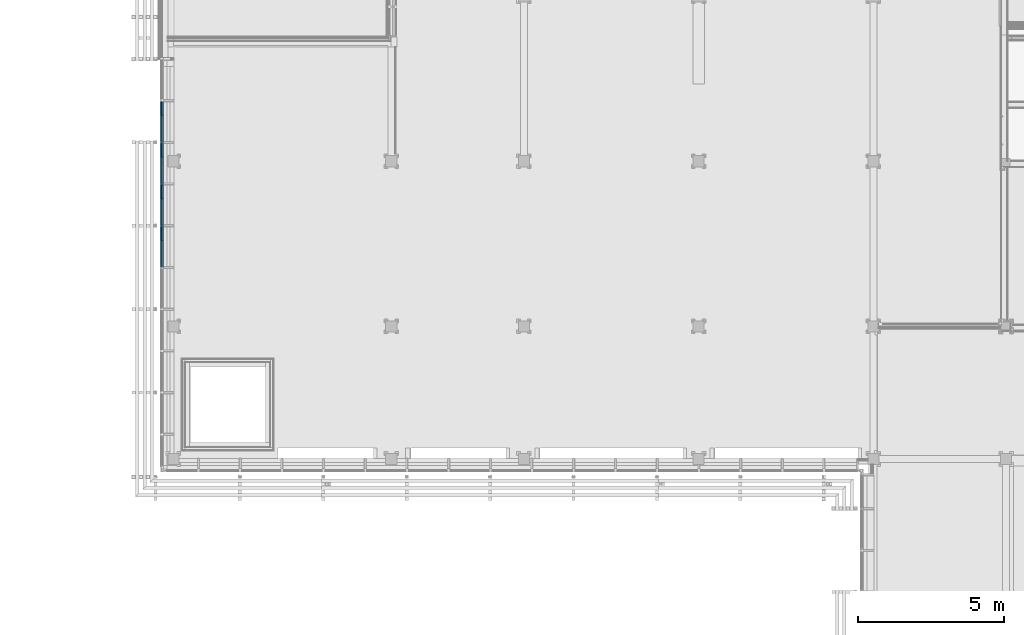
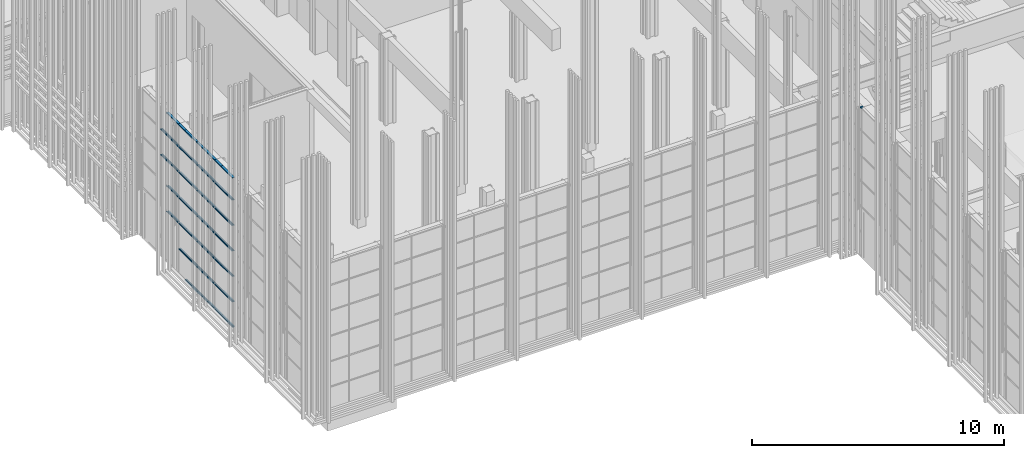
# One storey, part 43 of 260: 49 members, 1 element without a shape of its own.
"""IFC2X3 building model written with IfcOpenShell, lengths in millimetres."""

from ifc_helpers import new_model, entity, si_unit, converted_unit, derived_unit, money_unit, direction, frame, origin_with_axes, place, context, subcontext, project, spatial, faceted_brep, source, transform, mapped, material, type_object, element, aggregate, save


model = new_model("IFC2X3")

# Units and contexts
model_context = context("Model", 3, precision=0.01, world=origin_with_axes(), true_north=direction((0.0, 1.0)))
body_context = subcontext(model_context, "Body", "Model", "MODEL_VIEW")
ifc_project = project(units=[si_unit("LENGTHUNIT", "METRE", prefix="MILLI"), si_unit("AREAUNIT", "SQUARE_METRE"), si_unit("VOLUMEUNIT", "CUBIC_METRE"), converted_unit("PLANEANGLEUNIT", "DEGREE", entity("IfcPlaneAngleMeasure", 0.0174532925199), si_unit("PLANEANGLEUNIT", "RADIAN"), dimensions=[0, 0, 0, 0, 0, 0, 0]), money_unit("EUR"), converted_unit("TIMEUNIT", "Year", entity("IfcTimeMeasure", 31556926.0), si_unit("TIMEUNIT", "SECOND"), dimensions=[0, 0, 1, 0, 0, 0, 0]), si_unit("MASSUNIT", "GRAM", prefix="KILO"), si_unit("THERMODYNAMICTEMPERATUREUNIT", "DEGREE_CELSIUS"), si_unit("LUMINOUSINTENSITYUNIT", "LUMEN"), si_unit("ENERGYUNIT", "JOULE", prefix="MEGA"), derived_unit("THERMALCONDUCTANCEUNIT", [(si_unit("POWERUNIT", "WATT"), 1), (si_unit("LENGTHUNIT", "METRE"), -1), (si_unit("THERMODYNAMICTEMPERATUREUNIT", "KELVIN"), -1)]), derived_unit("SPECIFICHEATCAPACITYUNIT", [(si_unit("ENERGYUNIT", "JOULE"), 1), (si_unit("MASSUNIT", "GRAM", prefix="KILO"), -1), (si_unit("THERMODYNAMICTEMPERATUREUNIT", "KELVIN"), -1)]), derived_unit("MASSDENSITYUNIT", [(si_unit("MASSUNIT", "GRAM", prefix="KILO"), 1), (si_unit("VOLUMEUNIT", "CUBIC_METRE"), -1)])], contexts=[model_context])

# Site, building, storey
site_placement = place(None, origin_with_axes())
site = spatial("IfcSite", under=ifc_project, at=site_placement, Name="Kolde pst 67a", CompositionType="ELEMENT")
building_placement = place(site_placement, origin_with_axes())
building = spatial("IfcBuilding", under=site, at=building_placement, Name="Riigigümnaasium", CompositionType="ELEMENT")
storey_placement = place(building_placement, origin_with_axes())
storey = spatial("IfcBuildingStorey", under=building, at=storey_placement, Name="1. korrus", CompositionType="ELEMENT", Elevation=0.0)

# Curtain wall, members
curtain_wall_type = type_object("IfcCurtainWallType", Name="Curtain Wall Type", PredefinedType="NOTDEFINED")
curtain_wall_placement = place(storey_placement, frame((47829.9854655, 8727.77020058, -0.000749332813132), z_axis=(0.0, 0.0, 1.0), x_axis=(1.0, 0.0, 0.0)))
curtain_wall = element("IfcCurtainWall", 1, at=curtain_wall_placement, inside=storey, type_object=curtain_wall_type, Name="KLAASFASSAAD")
ifc_material = material(Name="_METALL - alumiinium")
member_type_1 = type_object("IfcMemberType", Name="Boundary Frame 50 x 100", PredefinedType="MEMBER")
shared_shape_1 = source(origin_with_axes(), body_context, "Body", "Brep", [
    faceted_brep([(-30.0, -16.5, 77.2480145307), (-50.0, -16.5, 77.2480145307), (-50.0, -60.0, 77.2480145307), (0.0, -60.0, 77.2480145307), (0.0, 40.0, 77.2480145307), (-50.0, 40.0, 77.2480145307), (-50.0, 16.5, 77.2480145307), (-30.0, 16.5, 77.2480145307), (-30.0, -16.5, 0.0), (-50.0, -16.5, 0.0), (-50.0, -60.0, 0.0), (0.0, -60.0, 0.0), (0.0, 40.0, 0.0), (-50.0, 40.0, 0.0), (-50.0, 16.5, 0.0), (-30.0, 16.5, 0.0)], [[[0, 1, 2, 3, 4, 5, 6, 7]], [[0, 8, 9, 1]], [[9, 10, 2, 1]], [[10, 11, 3, 2]], [[11, 12, 4, 3]], [[12, 13, 5, 4]], [[6, 5, 13, 14]], [[14, 15, 7, 6]], [[7, 15, 8, 0]], [[8, 15, 14, 13, 12, 11, 10, 9]]]),
])
member_1_placement = place(curtain_wall_placement, frame((-1.26496217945e-05, 13876.0390847, 7259.99994321), z_axis=(9.11633786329e-10, -1.0, 0.0), x_axis=(0.0, 0.0, -1.0)))
member_1 = element("IfcMember", 2, at=member_1_placement, type_object=member_type_1, material=ifc_material, Name="RF RAAM SERV-572", ObjectType="MEMBER", context=body_context, shape_type="MappedRepresentation", body=[
    mapped(shared_shape_1, transform((0.0, 0.0, 0.0), x_axis=(-1.0, 0.0, 0.0), y_axis=(0.0, -1.0, -9.11633786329e-10), z_axis=(0.0, -9.11633786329e-10, 1.0))),
])
shared_shape_2 = source(origin_with_axes(), body_context, "Body", "Brep", [
    faceted_brep([(-30.0, -16.5, 920.000003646), (-50.0, -16.5, 920.000003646), (-50.0, -60.0, 920.000003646), (0.0, -60.0, 920.000003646), (0.0, 40.0, 920.000003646), (-50.0, 40.0, 920.000003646), (-50.0, 16.5, 920.000003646), (-30.0, 16.5, 920.000003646), (-30.0, -16.5, 0.0), (-50.0, -16.5, 0.0), (-50.0, -60.0, 0.0), (0.0, -60.0, 0.0), (0.0, 40.0, 0.0), (-50.0, 40.0, 0.0), (-50.0, 16.5, 0.0), (-30.0, 16.5, 0.0)], [[[0, 1, 2, 3, 4, 5, 6, 7]], [[0, 8, 9, 1]], [[9, 10, 2, 1]], [[10, 11, 3, 2]], [[11, 12, 4, 3]], [[12, 13, 5, 4]], [[6, 5, 13, 14]], [[14, 15, 7, 6]], [[7, 15, 8, 0]], [[8, 15, 14, 13, 12, 11, 10, 9]]]),
])
member_2_placement = place(curtain_wall_placement, frame((-23999.9308899, 22067.2742227, 2.49889189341e-05), z_axis=(7.64768489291e-06, 0.999999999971, 0.0), x_axis=(0.0, 0.0, 1.0)))
member_2 = element("IfcMember", 3, at=member_2_placement, type_object=member_type_1, material=ifc_material, Name="RF RAAM SERV-640", ObjectType="MEMBER", context=body_context, shape_type="MappedRepresentation", body=[
    mapped(shared_shape_2, transform((0.0, 0.0, 0.0), x_axis=(-1.0, 0.0, 0.0), y_axis=(0.0, -1.0, 0.0), z_axis=(0.0, 0.0, 1.0))),
])
member_3_placement = place(curtain_wall_placement, frame((-23999.9199537, 23497.2742203, 2.49889189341e-05), z_axis=(7.64768489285e-06, 0.999999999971, 0.0), x_axis=(0.0, 0.0, 1.0)))
member_3 = element("IfcMember", 4, at=member_3_placement, type_object=member_type_1, material=ifc_material, Name="RF RAAM SERV-641", ObjectType="MEMBER", context=body_context, shape_type="MappedRepresentation", body=[
    mapped(shared_shape_2, transform((0.0, 0.0, 0.0), x_axis=(-1.0, 0.0, 0.0), y_axis=(0.0, -1.0, 0.0), z_axis=(0.0, 0.0, 1.0))),
])
member_4_placement = place(curtain_wall_placement, frame((-23999.9090175, 24927.2742179, 2.49889189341e-05), z_axis=(7.64768489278e-06, 0.999999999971, 0.0), x_axis=(0.0, 0.0, 1.0)))
member_4 = element("IfcMember", 5, at=member_4_placement, type_object=member_type_1, material=ifc_material, Name="RF RAAM SERV-642", ObjectType="MEMBER", context=body_context, shape_type="MappedRepresentation", body=[
    mapped(shared_shape_2, transform((0.0, 0.0, 0.0), x_axis=(-1.0, 0.0, 0.0), y_axis=(0.0, -1.0, 0.0), z_axis=(0.0, 0.0, 1.0))),
])
member_5_placement = place(curtain_wall_placement, frame((-23999.923854, 22987.2742143, 7259.99963417), z_axis=(-7.64768489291e-06, -0.999999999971, 0.0), x_axis=(0.0, 0.0, -1.0)))
member_5 = element("IfcMember", 6, at=member_5_placement, type_object=member_type_1, material=ifc_material, Name="RF RAAM SERV-657", ObjectType="MEMBER", context=body_context, shape_type="MappedRepresentation", body=[
    mapped(shared_shape_2, transform((0.0, 0.0, 0.0), x_axis=(-1.0, 0.0, 0.0), y_axis=(0.0, -0.999999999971, 7.64768489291e-06), z_axis=(0.0, 7.64768489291e-06, 0.999999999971))),
])
member_6_placement = place(curtain_wall_placement, frame((-23999.9129178, 24417.2742143, 7259.99963417), z_axis=(-7.64768489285e-06, -0.999999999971, 0.0), x_axis=(0.0, 0.0, -1.0)))
member_6 = element("IfcMember", 7, at=member_6_placement, type_object=member_type_1, material=ifc_material, Name="RF RAAM SERV-656", ObjectType="MEMBER", context=body_context, shape_type="MappedRepresentation", body=[
    mapped(shared_shape_2, transform((0.0, 0.0, 0.0), x_axis=(-1.0, 0.0, 0.0), y_axis=(0.0, -0.999999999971, 7.64768489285e-06), z_axis=(0.0, 7.64768489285e-06, 0.999999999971))),
])
member_7_placement = place(curtain_wall_placement, frame((-23999.9019816, 25847.2742142, 7259.99963417), z_axis=(-7.64768489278e-06, -0.999999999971, 0.0), x_axis=(0.0, 0.0, -1.0)))
member_7 = element("IfcMember", 8, at=member_7_placement, type_object=member_type_1, material=ifc_material, Name="RF RAAM SERV-655", ObjectType="MEMBER", context=body_context, shape_type="MappedRepresentation", body=[
    mapped(shared_shape_2, transform((0.0, 0.0, 0.0), x_axis=(-1.0, 0.0, 0.0), y_axis=(0.0, -0.999999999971, 7.64768489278e-06), z_axis=(0.0, 7.64768489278e-06, 0.999999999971))),
])
member_8_placement = place(curtain_wall_placement, frame((-23999.8910454, 27277.2742142, 7259.99963417), z_axis=(-7.64768489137e-06, -0.999999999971, 0.0), x_axis=(0.0, 0.0, -1.0)))
member_8 = element("IfcMember", 9, at=member_8_placement, type_object=member_type_1, material=ifc_material, Name="RF RAAM SERV-654", ObjectType="MEMBER", context=body_context, shape_type="MappedRepresentation", body=[
    mapped(shared_shape_2, transform((0.0, 0.0, 0.0), x_axis=(-1.0, 0.0, 0.0), y_axis=(0.0, -0.999999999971, 7.64768489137e-06), z_axis=(0.0, 7.64768489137e-06, 0.999999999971))),
])
member_type_2 = type_object("IfcMemberType", Name="Transom Frame 50 x 100", PredefinedType="MEMBER")
shared_shape_3 = source(origin_with_axes(), body_context, "Body", "Brep", [
    faceted_brep([(5.0, -16.5, 919.999993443), (5.0, 16.5, 919.999993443), (25.0, 16.5, 919.999993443), (25.0, 40.0, 919.999993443), (-25.0, 40.0, 919.999993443), (-25.0, 16.5, 919.999993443), (-5.0, 16.5, 919.999993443), (-5.0, -16.5, 919.999993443), (-25.0, -16.5, 919.999993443), (-25.0, -60.0, 919.999993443), (25.0, -60.0, 919.999993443), (25.0, -16.5, 919.999993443), (5.0, -16.5, 25.0000001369), (5.0, 16.5, 24.9999998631), (25.0, 16.5, 24.9999998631), (25.0, 40.0, 24.9999996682), (-25.0, 40.0, 24.9999996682), (-25.0, 16.5, 24.9999998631), (-5.0, 16.5, 24.9999998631), (-5.0, -16.5, 25.0000001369), (-25.0, -16.5, 25.0000001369), (-25.0, -60.0, 25.0000004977), (25.0, -60.0, 25.0000004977), (25.0, -16.5, 25.0000001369)], [[[0, 1, 2, 3, 4, 5, 6, 7, 8, 9, 10, 11]], [[0, 12, 13, 1]], [[1, 13, 14, 2]], [[14, 15, 3, 2]], [[4, 3, 15, 16]], [[17, 5, 4, 16]], [[5, 17, 18, 6]], [[7, 6, 18, 19]], [[8, 7, 19, 20]], [[8, 20, 21, 9]], [[10, 9, 21, 22]], [[11, 10, 22, 23]], [[11, 23, 12, 0]], [[13, 12, 23, 22, 21, 20, 19, 18, 17, 16, 15, 14]]]),
])
member_9_placement = place(curtain_wall_placement, frame((-23999.9308899, 22067.2742209, 1230.00074933), z_axis=(7.64768489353e-06, 0.999999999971, 0.0), x_axis=(0.0, 0.0, 1.0)))
member_9 = element("IfcMember", 10, at=member_9_placement, type_object=member_type_2, material=ifc_material, Name="RF RAAM HOR-305", ObjectType="MEMBER", context=body_context, shape_type="MappedRepresentation", body=[
    mapped(shared_shape_3, transform((0.0, 0.0, 0.0), x_axis=(-1.0, 0.0, 0.0), y_axis=(0.0, -1.0, 0.0), z_axis=(0.0, 0.0, 1.0))),
])
member_10_placement = place(curtain_wall_placement, frame((-23999.9199537, 23497.2742209, 1230.00074933), z_axis=(7.64768489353e-06, 0.999999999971, 0.0), x_axis=(0.0, 0.0, 1.0)))
member_10 = element("IfcMember", 11, at=member_10_placement, type_object=member_type_2, material=ifc_material, Name="RF RAAM HOR-306", ObjectType="MEMBER", context=body_context, shape_type="MappedRepresentation", body=[
    mapped(shared_shape_3, transform((0.0, 0.0, 0.0), x_axis=(-1.0, 0.0, 0.0), y_axis=(0.0, -1.0, 0.0), z_axis=(0.0, 0.0, 1.0))),
])
member_11_placement = place(curtain_wall_placement, frame((-23999.9090175, 24927.2742208, 1230.00074933), z_axis=(7.64768489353e-06, 0.999999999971, 0.0), x_axis=(0.0, 0.0, 1.0)))
member_11 = element("IfcMember", 12, at=member_11_placement, type_object=member_type_2, material=ifc_material, Name="RF RAAM HOR-307", ObjectType="MEMBER", context=body_context, shape_type="MappedRepresentation", body=[
    mapped(shared_shape_3, transform((0.0, 0.0, 0.0), x_axis=(-1.0, 0.0, 0.0), y_axis=(0.0, -1.0, 0.0), z_axis=(0.0, 0.0, 1.0))),
])
member_12_placement = place(curtain_wall_placement, frame((-23999.9308899, 22067.2742209, 2460.00074933), z_axis=(7.64768489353e-06, 0.999999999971, 0.0), x_axis=(0.0, 0.0, 1.0)))
member_12 = element("IfcMember", 13, at=member_12_placement, type_object=member_type_2, material=ifc_material, Name="RF RAAM HOR-316", ObjectType="MEMBER", context=body_context, shape_type="MappedRepresentation", body=[
    mapped(shared_shape_3, transform((0.0, 0.0, 0.0), x_axis=(-1.0, 0.0, 0.0), y_axis=(0.0, -1.0, 0.0), z_axis=(0.0, 0.0, 1.0))),
])
member_13_placement = place(curtain_wall_placement, frame((-23999.9199537, 23497.2742209, 2460.00074933), z_axis=(7.64768489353e-06, 0.999999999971, 0.0), x_axis=(0.0, 0.0, 1.0)))
member_13 = element("IfcMember", 14, at=member_13_placement, type_object=member_type_2, material=ifc_material, Name="RF RAAM HOR-317", ObjectType="MEMBER", context=body_context, shape_type="MappedRepresentation", body=[
    mapped(shared_shape_3, transform((0.0, 0.0, 0.0), x_axis=(-1.0, 0.0, 0.0), y_axis=(0.0, -1.0, 0.0), z_axis=(0.0, 0.0, 1.0))),
])
member_14_placement = place(curtain_wall_placement, frame((-23999.9090175, 24927.2742208, 2460.00074933), z_axis=(7.64768489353e-06, 0.999999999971, 0.0), x_axis=(0.0, 0.0, 1.0)))
member_14 = element("IfcMember", 15, at=member_14_placement, type_object=member_type_2, material=ifc_material, Name="RF RAAM HOR-318", ObjectType="MEMBER", context=body_context, shape_type="MappedRepresentation", body=[
    mapped(shared_shape_3, transform((0.0, 0.0, 0.0), x_axis=(-1.0, 0.0, 0.0), y_axis=(0.0, -1.0, 0.0), z_axis=(0.0, 0.0, 1.0))),
])
member_15_placement = place(curtain_wall_placement, frame((-23999.8980813, 26357.2742208, 2460.00074933), z_axis=(7.64768488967e-06, 0.999999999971, 0.0), x_axis=(0.0, 0.0, 1.0)))
member_15 = element("IfcMember", 16, at=member_15_placement, type_object=member_type_2, material=ifc_material, Name="RF RAAM HOR-319", ObjectType="MEMBER", context=body_context, shape_type="MappedRepresentation", body=[
    mapped(shared_shape_3, transform((0.0, 0.0, 0.0), x_axis=(-1.0, 0.0, 0.0), y_axis=(0.0, -1.0, 0.0), z_axis=(0.0, 0.0, 1.0))),
])
member_16_placement = place(curtain_wall_placement, frame((-23999.9308899, 22067.2742209, 3690.00074933), z_axis=(7.64768489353e-06, 0.999999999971, 0.0), x_axis=(0.0, 0.0, 1.0)))
member_16 = element("IfcMember", 17, at=member_16_placement, type_object=member_type_2, material=ifc_material, Name="RF RAAM HOR-327", ObjectType="MEMBER", context=body_context, shape_type="MappedRepresentation", body=[
    mapped(shared_shape_3, transform((0.0, 0.0, 0.0), x_axis=(-1.0, 0.0, 0.0), y_axis=(0.0, -1.0, 0.0), z_axis=(0.0, 0.0, 1.0))),
])
member_17_placement = place(curtain_wall_placement, frame((-23999.9199537, 23497.2742209, 3690.00074933), z_axis=(7.64768489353e-06, 0.999999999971, 0.0), x_axis=(0.0, 0.0, 1.0)))
member_17 = element("IfcMember", 18, at=member_17_placement, type_object=member_type_2, material=ifc_material, Name="RF RAAM HOR-328", ObjectType="MEMBER", context=body_context, shape_type="MappedRepresentation", body=[
    mapped(shared_shape_3, transform((0.0, 0.0, 0.0), x_axis=(-1.0, 0.0, 0.0), y_axis=(0.0, -1.0, 0.0), z_axis=(0.0, 0.0, 1.0))),
])
member_18_placement = place(curtain_wall_placement, frame((-23999.9090175, 24927.2742208, 3690.00074933), z_axis=(7.64768489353e-06, 0.999999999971, 0.0), x_axis=(0.0, 0.0, 1.0)))
member_18 = element("IfcMember", 19, at=member_18_placement, type_object=member_type_2, material=ifc_material, Name="RF RAAM HOR-329", ObjectType="MEMBER", context=body_context, shape_type="MappedRepresentation", body=[
    mapped(shared_shape_3, transform((0.0, 0.0, 0.0), x_axis=(-1.0, 0.0, 0.0), y_axis=(0.0, -1.0, 0.0), z_axis=(0.0, 0.0, 1.0))),
])
member_19_placement = place(curtain_wall_placement, frame((-23999.8980813, 26357.2742208, 3690.00074933), z_axis=(7.64768488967e-06, 0.999999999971, 0.0), x_axis=(0.0, 0.0, 1.0)))
member_19 = element("IfcMember", 20, at=member_19_placement, type_object=member_type_2, material=ifc_material, Name="RF RAAM HOR-330", ObjectType="MEMBER", context=body_context, shape_type="MappedRepresentation", body=[
    mapped(shared_shape_3, transform((0.0, 0.0, 0.0), x_axis=(-1.0, 0.0, 0.0), y_axis=(0.0, -1.0, 0.0), z_axis=(0.0, 0.0, 1.0))),
])
member_20_placement = place(curtain_wall_placement, frame((-23999.9308899, 22067.2742209, 4920.00074933), z_axis=(7.64768489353e-06, 0.999999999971, 0.0), x_axis=(0.0, 0.0, 1.0)))
member_20 = element("IfcMember", 21, at=member_20_placement, type_object=member_type_2, material=ifc_material, Name="RF RAAM HOR-338", ObjectType="MEMBER", context=body_context, shape_type="MappedRepresentation", body=[
    mapped(shared_shape_3, transform((0.0, 0.0, 0.0), x_axis=(-1.0, 0.0, 0.0), y_axis=(0.0, -1.0, 0.0), z_axis=(0.0, 0.0, 1.0))),
])
member_21_placement = place(curtain_wall_placement, frame((-23999.9199537, 23497.2742209, 4920.00074933), z_axis=(7.64768489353e-06, 0.999999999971, 0.0), x_axis=(0.0, 0.0, 1.0)))
member_21 = element("IfcMember", 22, at=member_21_placement, type_object=member_type_2, material=ifc_material, Name="RF RAAM HOR-339", ObjectType="MEMBER", context=body_context, shape_type="MappedRepresentation", body=[
    mapped(shared_shape_3, transform((0.0, 0.0, 0.0), x_axis=(-1.0, 0.0, 0.0), y_axis=(0.0, -1.0, 0.0), z_axis=(0.0, 0.0, 1.0))),
])
member_22_placement = place(curtain_wall_placement, frame((-23999.9090175, 24927.2742208, 4920.00074933), z_axis=(7.64768489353e-06, 0.999999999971, 0.0), x_axis=(0.0, 0.0, 1.0)))
member_22 = element("IfcMember", 23, at=member_22_placement, type_object=member_type_2, material=ifc_material, Name="RF RAAM HOR-340", ObjectType="MEMBER", context=body_context, shape_type="MappedRepresentation", body=[
    mapped(shared_shape_3, transform((0.0, 0.0, 0.0), x_axis=(-1.0, 0.0, 0.0), y_axis=(0.0, -1.0, 0.0), z_axis=(0.0, 0.0, 1.0))),
])
member_23_placement = place(curtain_wall_placement, frame((-23999.8980813, 26357.2742208, 4920.00074933), z_axis=(7.64768488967e-06, 0.999999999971, 0.0), x_axis=(0.0, 0.0, 1.0)))
member_23 = element("IfcMember", 24, at=member_23_placement, type_object=member_type_2, material=ifc_material, Name="RF RAAM HOR-341", ObjectType="MEMBER", context=body_context, shape_type="MappedRepresentation", body=[
    mapped(shared_shape_3, transform((0.0, 0.0, 0.0), x_axis=(-1.0, 0.0, 0.0), y_axis=(0.0, -1.0, 0.0), z_axis=(0.0, 0.0, 1.0))),
])
member_24_placement = place(curtain_wall_placement, frame((-23999.9308899, 22067.2742227, 6150.00074933), z_axis=(7.64768489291e-06, 0.999999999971, 0.0), x_axis=(0.0, 0.0, 1.0)))
member_24 = element("IfcMember", 25, at=member_24_placement, type_object=member_type_2, material=ifc_material, Name="RF RAAM HOR-349", ObjectType="MEMBER", context=body_context, shape_type="MappedRepresentation", body=[
    mapped(shared_shape_3, transform((0.0, 0.0, 0.0), x_axis=(-1.0, 0.0, 0.0), y_axis=(0.0, -1.0, 0.0), z_axis=(0.0, 0.0, 1.0))),
])
member_25_placement = place(curtain_wall_placement, frame((-23999.9199537, 23497.2742203, 6150.00074933), z_axis=(7.64768489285e-06, 0.999999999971, 0.0), x_axis=(0.0, 0.0, 1.0)))
member_25 = element("IfcMember", 26, at=member_25_placement, type_object=member_type_2, material=ifc_material, Name="RF RAAM HOR-350", ObjectType="MEMBER", context=body_context, shape_type="MappedRepresentation", body=[
    mapped(shared_shape_3, transform((0.0, 0.0, 0.0), x_axis=(-1.0, 0.0, 0.0), y_axis=(0.0, -1.0, 0.0), z_axis=(0.0, 0.0, 1.0))),
])
member_26_placement = place(curtain_wall_placement, frame((-23999.9090175, 24927.2742179, 6150.00074933), z_axis=(7.64768489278e-06, 0.999999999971, 0.0), x_axis=(0.0, 0.0, 1.0)))
member_26 = element("IfcMember", 27, at=member_26_placement, type_object=member_type_2, material=ifc_material, Name="RF RAAM HOR-351", ObjectType="MEMBER", context=body_context, shape_type="MappedRepresentation", body=[
    mapped(shared_shape_3, transform((0.0, 0.0, 0.0), x_axis=(-1.0, 0.0, 0.0), y_axis=(0.0, -1.0, 0.0), z_axis=(0.0, 0.0, 1.0))),
])
member_27_placement = place(curtain_wall_placement, frame((-23999.8980813, 26357.2742043, 6150.00074933), z_axis=(7.64768489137e-06, 0.999999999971, 0.0), x_axis=(0.0, 0.0, 1.0)))
member_27 = element("IfcMember", 28, at=member_27_placement, type_object=member_type_2, material=ifc_material, Name="RF RAAM HOR-352", ObjectType="MEMBER", context=body_context, shape_type="MappedRepresentation", body=[
    mapped(shared_shape_3, transform((0.0, 0.0, 0.0), x_axis=(-1.0, 0.0, 0.0), y_axis=(0.0, -1.0, 0.0), z_axis=(0.0, 0.0, 1.0))),
])
shared_shape_4 = source(origin_with_axes(), body_context, "Body", "Brep", [
    faceted_brep([(5.0, -16.5, 485.000001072), (5.0, 16.5, 485.000001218), (25.0, 16.5, 485.000001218), (25.0, 40.0, 485.000001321), (-25.0, 40.0, 485.000001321), (-25.0, 16.5, 485.000001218), (-5.0, 16.5, 485.000001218), (-5.0, -16.5, 485.000001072), (-25.0, -16.5, 485.000001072), (-25.0, -60.0, 485.000000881), (25.0, -60.0, 485.000000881), (25.0, -16.5, 485.000001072), (5.0, -16.5, 0.0), (5.0, 16.5, 0.0), (25.0, 16.5, 0.0), (25.0, 40.0, 0.0), (-25.0, 40.0, 0.0), (-25.0, 16.5, 0.0), (-5.0, 16.5, 0.0), (-5.0, -16.5, 0.0), (-25.0, -16.5, 0.0), (-25.0, -60.0, 0.0), (25.0, -60.0, 0.0), (25.0, -16.5, 0.0)], [[[0, 1, 2, 3, 4, 5, 6, 7, 8, 9, 10, 11]], [[0, 12, 13, 1]], [[1, 13, 14, 2]], [[14, 15, 3, 2]], [[3, 15, 16, 4]], [[17, 5, 4, 16]], [[5, 17, 18, 6]], [[7, 6, 18, 19]], [[8, 7, 19, 20]], [[8, 20, 21, 9]], [[9, 21, 22, 10]], [[11, 10, 22, 23]], [[11, 23, 12, 0]], [[13, 12, 23, 22, 21, 20, 19, 18, 17, 16, 15, 14]]]),
])
member_28_placement = place(curtain_wall_placement, frame((-23999.8910454, 27277.2742142, 6150.00074933), z_axis=(7.64768489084e-06, 0.999999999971, 0.0), x_axis=(0.0, 0.0, 1.0)))
member_28 = element("IfcMember", 29, at=member_28_placement, type_object=member_type_2, material=ifc_material, Name="RF RAAM HOR-591", ObjectType="MEMBER", context=body_context, shape_type="MappedRepresentation", body=[
    mapped(shared_shape_4, transform((0.0, 0.0, 0.0), x_axis=(-1.0, 0.0, 0.0), y_axis=(0.0, -1.0, 0.0), z_axis=(0.0, 0.0, 1.0))),
])
member_29_placement = place(curtain_wall_placement, frame((-23999.9019816, 25847.2742142, 6150.00074933), z_axis=(7.64768489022e-06, 0.999999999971, 0.0), x_axis=(0.0, 0.0, 1.0)))
member_29 = element("IfcMember", 30, at=member_29_placement, type_object=member_type_2, material=ifc_material, Name="RF RAAM HOR-592", ObjectType="MEMBER", context=body_context, shape_type="MappedRepresentation", body=[
    mapped(shared_shape_4, transform((0.0, 0.0, 0.0), x_axis=(-1.0, 0.0, 0.0), y_axis=(0.0, -1.0, 0.0), z_axis=(0.0, 0.0, 1.0))),
])
member_30_placement = place(curtain_wall_placement, frame((-23999.9129178, 24417.2742143, 6150.00074933), z_axis=(7.64768489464e-06, 0.999999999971, 0.0), x_axis=(0.0, 0.0, 1.0)))
member_30 = element("IfcMember", 31, at=member_30_placement, type_object=member_type_2, material=ifc_material, Name="RF RAAM HOR-593", ObjectType="MEMBER", context=body_context, shape_type="MappedRepresentation", body=[
    mapped(shared_shape_4, transform((0.0, 0.0, 0.0), x_axis=(-1.0, 0.0, 0.0), y_axis=(0.0, -1.0, 0.0), z_axis=(0.0, 0.0, 1.0))),
])
member_31_placement = place(curtain_wall_placement, frame((-23999.923854, 22987.2742143, 6150.00074933), z_axis=(7.64768489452e-06, 0.999999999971, 0.0), x_axis=(0.0, 0.0, 1.0)))
member_31 = element("IfcMember", 32, at=member_31_placement, type_object=member_type_2, material=ifc_material, Name="RF RAAM HOR-594", ObjectType="MEMBER", context=body_context, shape_type="MappedRepresentation", body=[
    mapped(shared_shape_4, transform((0.0, 0.0, 0.0), x_axis=(-1.0, 0.0, 0.0), y_axis=(0.0, -1.0, 0.0), z_axis=(0.0, 0.0, 1.0))),
])
member_32_placement = place(curtain_wall_placement, frame((-23999.8910454, 27277.2742142, 4920.00074933), z_axis=(7.64768489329e-06, 0.999999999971, 0.0), x_axis=(0.0, 0.0, 1.0)))
member_32 = element("IfcMember", 33, at=member_32_placement, type_object=member_type_2, material=ifc_material, Name="RF RAAM HOR-600", ObjectType="MEMBER", context=body_context, shape_type="MappedRepresentation", body=[
    mapped(shared_shape_4, transform((0.0, 0.0, 0.0), x_axis=(-1.0, 0.0, 0.0), y_axis=(0.0, -1.0, 0.0), z_axis=(0.0, 0.0, 1.0))),
])
member_33_placement = place(curtain_wall_placement, frame((-23999.9019816, 25847.2742142, 4920.00074933), z_axis=(7.64768489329e-06, 0.999999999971, 0.0), x_axis=(0.0, 0.0, 1.0)))
member_33 = element("IfcMember", 34, at=member_33_placement, type_object=member_type_2, material=ifc_material, Name="RF RAAM HOR-604", ObjectType="MEMBER", context=body_context, shape_type="MappedRepresentation", body=[
    mapped(shared_shape_4, transform((0.0, 0.0, 0.0), x_axis=(-1.0, 0.0, 0.0), y_axis=(0.0, -1.0, 0.0), z_axis=(0.0, 0.0, 1.0))),
])
member_34_placement = place(curtain_wall_placement, frame((-23999.9019816, 25847.2742142, 3690.00074933), z_axis=(7.64768489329e-06, 0.999999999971, 0.0), x_axis=(0.0, 0.0, 1.0)))
member_34 = element("IfcMember", 35, at=member_34_placement, type_object=member_type_2, material=ifc_material, Name="RF RAAM HOR-605", ObjectType="MEMBER", context=body_context, shape_type="MappedRepresentation", body=[
    mapped(shared_shape_4, transform((0.0, 0.0, 0.0), x_axis=(-1.0, 0.0, 0.0), y_axis=(0.0, -1.0, 0.0), z_axis=(0.0, 0.0, 1.0))),
])
member_35_placement = place(curtain_wall_placement, frame((-23999.9019816, 25847.2742142, 2460.00074933), z_axis=(7.64768489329e-06, 0.999999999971, 0.0), x_axis=(0.0, 0.0, 1.0)))
member_35 = element("IfcMember", 36, at=member_35_placement, type_object=member_type_2, material=ifc_material, Name="RF RAAM HOR-606", ObjectType="MEMBER", context=body_context, shape_type="MappedRepresentation", body=[
    mapped(shared_shape_4, transform((0.0, 0.0, 0.0), x_axis=(-1.0, 0.0, 0.0), y_axis=(0.0, -1.0, 0.0), z_axis=(0.0, 0.0, 1.0))),
])
member_36_placement = place(curtain_wall_placement, frame((-23999.9019816, 25847.2742142, 1230.00074933), z_axis=(7.64768489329e-06, 0.999999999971, 0.0), x_axis=(0.0, 0.0, 1.0)))
member_36 = element("IfcMember", 37, at=member_36_placement, type_object=member_type_2, material=ifc_material, Name="RF RAAM HOR-607", ObjectType="MEMBER", context=body_context, shape_type="MappedRepresentation", body=[
    mapped(shared_shape_4, transform((0.0, 0.0, 0.0), x_axis=(-1.0, 0.0, 0.0), y_axis=(0.0, -1.0, 0.0), z_axis=(0.0, 0.0, 1.0))),
])
member_37_placement = place(curtain_wall_placement, frame((-23999.9129178, 24417.2742143, 4920.00074933), z_axis=(7.64768489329e-06, 0.999999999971, 0.0), x_axis=(0.0, 0.0, 1.0)))
member_37 = element("IfcMember", 38, at=member_37_placement, type_object=member_type_2, material=ifc_material, Name="RF RAAM HOR-608", ObjectType="MEMBER", context=body_context, shape_type="MappedRepresentation", body=[
    mapped(shared_shape_4, transform((0.0, 0.0, 0.0), x_axis=(-1.0, 0.0, 0.0), y_axis=(0.0, -1.0, 0.0), z_axis=(0.0, 0.0, 1.0))),
])
member_38_placement = place(curtain_wall_placement, frame((-23999.9129178, 24417.2742143, 3690.00074933), z_axis=(7.64768489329e-06, 0.999999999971, 0.0), x_axis=(0.0, 0.0, 1.0)))
member_38 = element("IfcMember", 39, at=member_38_placement, type_object=member_type_2, material=ifc_material, Name="RF RAAM HOR-609", ObjectType="MEMBER", context=body_context, shape_type="MappedRepresentation", body=[
    mapped(shared_shape_4, transform((0.0, 0.0, 0.0), x_axis=(-1.0, 0.0, 0.0), y_axis=(0.0, -1.0, 0.0), z_axis=(0.0, 0.0, 1.0))),
])
member_39_placement = place(curtain_wall_placement, frame((-23999.9129178, 24417.2742143, 2460.00074933), z_axis=(7.64768489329e-06, 0.999999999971, 0.0), x_axis=(0.0, 0.0, 1.0)))
member_39 = element("IfcMember", 40, at=member_39_placement, type_object=member_type_2, material=ifc_material, Name="RF RAAM HOR-610", ObjectType="MEMBER", context=body_context, shape_type="MappedRepresentation", body=[
    mapped(shared_shape_4, transform((0.0, 0.0, 0.0), x_axis=(-1.0, 0.0, 0.0), y_axis=(0.0, -1.0, 0.0), z_axis=(0.0, 0.0, 1.0))),
])
member_40_placement = place(curtain_wall_placement, frame((-23999.9129178, 24417.2742143, 1230.00074933), z_axis=(7.64768489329e-06, 0.999999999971, 0.0), x_axis=(0.0, 0.0, 1.0)))
member_40 = element("IfcMember", 41, at=member_40_placement, type_object=member_type_2, material=ifc_material, Name="RF RAAM HOR-611", ObjectType="MEMBER", context=body_context, shape_type="MappedRepresentation", body=[
    mapped(shared_shape_4, transform((0.0, 0.0, 0.0), x_axis=(-1.0, 0.0, 0.0), y_axis=(0.0, -1.0, 0.0), z_axis=(0.0, 0.0, 1.0))),
])
member_41_placement = place(curtain_wall_placement, frame((-23999.923854, 22987.2742143, 4920.00074933), z_axis=(7.64768489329e-06, 0.999999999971, 0.0), x_axis=(0.0, 0.0, 1.0)))
member_41 = element("IfcMember", 42, at=member_41_placement, type_object=member_type_2, material=ifc_material, Name="RF RAAM HOR-612", ObjectType="MEMBER", context=body_context, shape_type="MappedRepresentation", body=[
    mapped(shared_shape_4, transform((0.0, 0.0, 0.0), x_axis=(-1.0, 0.0, 0.0), y_axis=(0.0, -1.0, 0.0), z_axis=(0.0, 0.0, 1.0))),
])
member_42_placement = place(curtain_wall_placement, frame((-23999.923854, 22987.2742143, 3690.00074933), z_axis=(7.64768489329e-06, 0.999999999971, 0.0), x_axis=(0.0, 0.0, 1.0)))
member_42 = element("IfcMember", 43, at=member_42_placement, type_object=member_type_2, material=ifc_material, Name="RF RAAM HOR-613", ObjectType="MEMBER", context=body_context, shape_type="MappedRepresentation", body=[
    mapped(shared_shape_4, transform((0.0, 0.0, 0.0), x_axis=(-1.0, 0.0, 0.0), y_axis=(0.0, -1.0, 0.0), z_axis=(0.0, 0.0, 1.0))),
])
member_43_placement = place(curtain_wall_placement, frame((-23999.923854, 22987.2742143, 2460.00074933), z_axis=(7.64768489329e-06, 0.999999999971, 0.0), x_axis=(0.0, 0.0, 1.0)))
member_43 = element("IfcMember", 44, at=member_43_placement, type_object=member_type_2, material=ifc_material, Name="RF RAAM HOR-614", ObjectType="MEMBER", context=body_context, shape_type="MappedRepresentation", body=[
    mapped(shared_shape_4, transform((0.0, 0.0, 0.0), x_axis=(-1.0, 0.0, 0.0), y_axis=(0.0, -1.0, 0.0), z_axis=(0.0, 0.0, 1.0))),
])
member_44_placement = place(curtain_wall_placement, frame((-23999.923854, 22987.2742143, 1230.00074933), z_axis=(7.64768489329e-06, 0.999999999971, 0.0), x_axis=(0.0, 0.0, 1.0)))
member_44 = element("IfcMember", 45, at=member_44_placement, type_object=member_type_2, material=ifc_material, Name="RF RAAM HOR-615", ObjectType="MEMBER", context=body_context, shape_type="MappedRepresentation", body=[
    mapped(shared_shape_4, transform((0.0, 0.0, 0.0), x_axis=(-1.0, 0.0, 0.0), y_axis=(0.0, -1.0, 0.0), z_axis=(0.0, 0.0, 1.0))),
])
shared_shape_5 = source(origin_with_axes(), body_context, "Body", "Brep", [
    faceted_brep([(-30.0, -16.5, 510.000003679), (-50.0, -16.5, 510.000003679), (-50.0, -60.0, 510.000003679), (0.0, -60.0, 510.000003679), (0.0, 40.0, 510.000003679), (-50.0, 40.0, 510.000003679), (-50.0, 16.5, 510.000003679), (-30.0, 16.5, 510.000003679), (-30.0, -16.5, 0.0), (-50.0, -16.5, 0.0), (-50.0, -60.0, 0.0), (0.0, -60.0, 0.0), (0.0, 40.0, 0.0), (-50.0, 40.0, 0.0), (-50.0, 16.5, 0.0), (-30.0, 16.5, 0.0)], [[[0, 1, 2, 3, 4, 5, 6, 7]], [[0, 8, 9, 1]], [[9, 10, 2, 1]], [[10, 11, 3, 2]], [[11, 12, 4, 3]], [[12, 13, 5, 4]], [[6, 5, 13, 14]], [[14, 15, 7, 6]], [[7, 15, 8, 0]], [[8, 15, 14, 13, 12, 11, 10, 9]]]),
])
member_45_placement = place(curtain_wall_placement, frame((-23999.9129178, 24417.2742143, 2.49889189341e-05), z_axis=(7.64768489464e-06, 0.999999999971, 0.0), x_axis=(0.0, 0.0, 1.0)))
member_45 = element("IfcMember", 46, at=member_45_placement, type_object=member_type_1, material=ifc_material, Name="RF RAAM SERV-642", ObjectType="MEMBER", context=body_context, shape_type="MappedRepresentation", body=[
    mapped(shared_shape_5, transform((0.0, 0.0, 0.0), x_axis=(-1.0, 0.0, 0.0), y_axis=(0.0, -1.0, 0.0), z_axis=(0.0, 0.0, 1.0))),
])
member_46_placement = place(curtain_wall_placement, frame((-23999.923854, 22987.2742143, 2.49889189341e-05), z_axis=(7.64768489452e-06, 0.999999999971, 0.0), x_axis=(0.0, 0.0, 1.0)))
member_46 = element("IfcMember", 47, at=member_46_placement, type_object=member_type_1, material=ifc_material, Name="RF RAAM SERV-641", ObjectType="MEMBER", context=body_context, shape_type="MappedRepresentation", body=[
    mapped(shared_shape_5, transform((0.0, 0.0, 0.0), x_axis=(-1.0, 0.0, 0.0), y_axis=(0.0, -1.0, 0.0), z_axis=(0.0, 0.0, 1.0))),
])
member_47_placement = place(curtain_wall_placement, frame((-23999.9199537, 23497.2742203, 7259.99963417), z_axis=(-7.64768489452e-06, -0.999999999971, 0.0), x_axis=(0.0, 0.0, -1.0)))
member_47 = element("IfcMember", 48, at=member_47_placement, type_object=member_type_1, material=ifc_material, Name="RF RAAM SERV-656", ObjectType="MEMBER", context=body_context, shape_type="MappedRepresentation", body=[
    mapped(shared_shape_5, transform((0.0, 0.0, 0.0), x_axis=(-1.0, 0.0, 0.0), y_axis=(0.0, -0.999999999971, 7.64768489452e-06), z_axis=(0.0, 7.64768489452e-06, 0.999999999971))),
])
member_48_placement = place(curtain_wall_placement, frame((-23999.9090175, 24927.2742179, 7259.99963417), z_axis=(-7.64768489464e-06, -0.999999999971, 0.0), x_axis=(0.0, 0.0, -1.0)))
member_48 = element("IfcMember", 49, at=member_48_placement, type_object=member_type_1, material=ifc_material, Name="RF RAAM SERV-655", ObjectType="MEMBER", context=body_context, shape_type="MappedRepresentation", body=[
    mapped(shared_shape_5, transform((0.0, 0.0, 0.0), x_axis=(-1.0, 0.0, 0.0), y_axis=(0.0, -0.999999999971, 7.64768489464e-06), z_axis=(0.0, 7.64768489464e-06, 0.999999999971))),
])
member_49_placement = place(curtain_wall_placement, frame((-23999.8980813, 26357.2742043, 7259.99963417), z_axis=(-7.64768489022e-06, -0.999999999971, 0.0), x_axis=(0.0, 0.0, -1.0)))
member_49 = element("IfcMember", 50, at=member_49_placement, type_object=member_type_1, material=ifc_material, Name="RF RAAM SERV-654", ObjectType="MEMBER", context=body_context, shape_type="MappedRepresentation", body=[
    mapped(shared_shape_5, transform((0.0, 0.0, 0.0), x_axis=(-1.0, 0.0, 0.0), y_axis=(0.0, -0.999999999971, 7.64768489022e-06), z_axis=(0.0, 7.64768489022e-06, 0.999999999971))),
])
aggregate(curtain_wall, [member_2, member_3, member_4, member_9, member_10, member_11, member_12, member_13, member_14, member_15, member_16, member_17, member_18, member_19, member_20, member_21, member_22, member_23, member_24, member_25, member_26, member_27, member_28, member_29, member_30, member_31, member_32, member_33, member_34, member_35, member_36, member_37, member_38, member_39, member_40, member_45, member_41, member_42, member_43, member_44, member_46, member_1, member_47, member_48, member_49, member_5, member_6, member_7, member_8])

save(model, "model.ifc")
